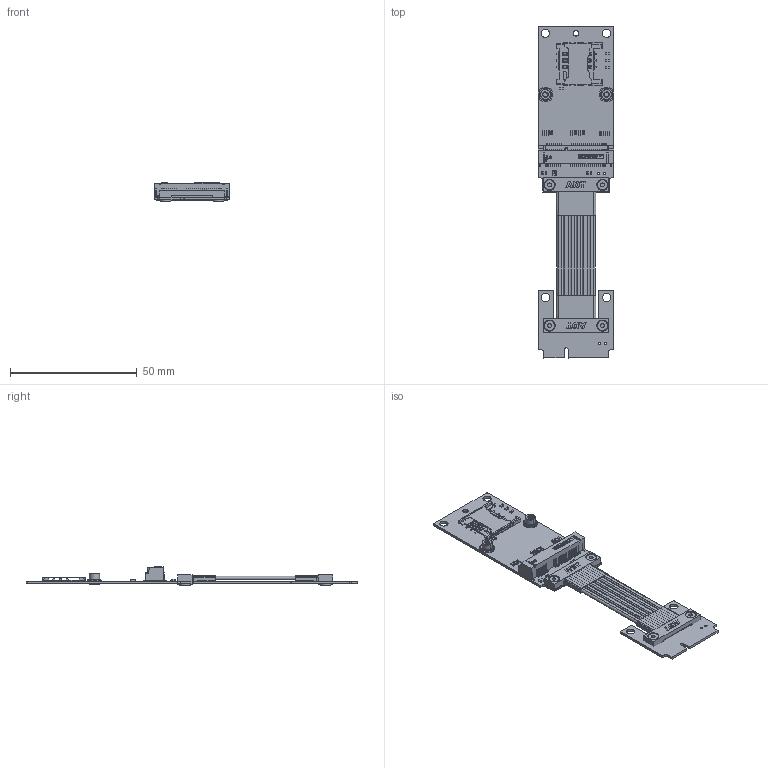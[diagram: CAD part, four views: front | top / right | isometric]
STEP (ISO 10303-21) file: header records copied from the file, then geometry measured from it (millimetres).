
FILE_DESCRIPTION(('Open CASCADE Model'),'2;1');
FILE_NAME('Open CASCADE Shape Model','2021-08-23T13:39:11',('Author'),( 'Open CASCADE'),'Open CASCADE STEP processor 6.8','Open CASCADE 6.8' ,'Unknown');
FILE_SCHEMA(('AUTOMOTIVE_DESIGN { 1 0 10303 214 1 1 1 1 }'));
Length unit declared in the file: millimetre
Products named in the file (184): PCB; Board; Open CASCADE STEP translator 6.8 24.1.1; Designator4; C701-6pin; R5; 0603_RES; Capsule; Encapsulation; TopCover; R4; R3; R2; R1; D1; LED_AP1608; CN4; Mini-Connector-20210714; C11; C0603_060; C10; C9; C8; C7; CAP0805; C6; C5; C4; C3; C2; C1; C12; Free-Models; R11SL-TL_4.0___Heat_shrink_tube_RGB3289650; DP5A-8T_窪伎_4.0; Tape14x5_RGB0; M2X0.4P-2.8_RGB14277081; G0038_RGB6759642; G0030_RGB12967653; R1SPAD4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
Assembly tree (262 placements, depth 4):
  PCB
    Board
      Open CASCADE STEP translator 6.8 24.1.1
    Designator4
      C701-6pin  x2
      C701-6pin
      C701-6pin  x2
      C701-6pin
      C701-6pin  x2
      C701-6pin
      C701-6pin  x2
      C701-6pin
      C701-6pin  x2
      C701-6pin
      C701-6pin  x2
      C701-6pin
      C701-6pin  x2
      C701-6pin
      C701-6pin  x2
      C701-6pin
      C701-6pin  x2
      C701-6pin
      C701-6pin  x2
      C701-6pin
      C701-6pin  x2
      C701-6pin
      C701-6pin  x2
      C701-6pin
      C701-6pin  x2
      C701-6pin
      C701-6pin  x2
      C701-6pin
      C701-6pin  x2
      C701-6pin
      C701-6pin  x2
      C701-6pin
      C701-6pin  x2
      C701-6pin
      C701-6pin  x2
      C701-6pin
      C701-6pin  x2
      C701-6pin
      C701-6pin  x2
      C701-6pin
      C701-6pin  x2
      C701-6pin
      C701-6pin  x2
      C701-6pin
      C701-6pin  x2
      C701-6pin
      C701-6pin  x2
      C701-6pin
      C701-6pin  x2
      C701-6pin
      C701-6pin  x2
      C701-6pin
      C701-6pin  x2
      C701-6pin
      C701-6pin  x2
      C701-6pin
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Bounding box: 30.03 x 131.23 x 7.12 mm (x, y, z)
Volume: 7568.1 mm3; surface area: 26340.5 mm2
Topology: 208 solids, 323 shells, 11489 faces, 30059 edges, 19296 vertices
Faces by surface type: plane 6343, cylinder 3276, bspline 1083, revolution 576, sphere 80, cone 73, torus 48, extrusion 10
Full cylindrical faces by diameter (mm): 0.25 x60, 0.28 x60, 0.55 x24, 0.58 x24, 0.8 x12, 0.85 x3, 0.9 x4, 1.1 x1, 1.6 x1, 2.2 x9, 3.3 x6, 4.4 x4
Entity records: 323341 total; most frequent: CARTESIAN_POINT 78504, ORIENTED_EDGE 37736, DIRECTION 35930, EDGE_CURVE 19000, VECTOR 12804, LINE 12799, VERTEX_POINT 12243, AXIS2_PLACEMENT_3D 11371
